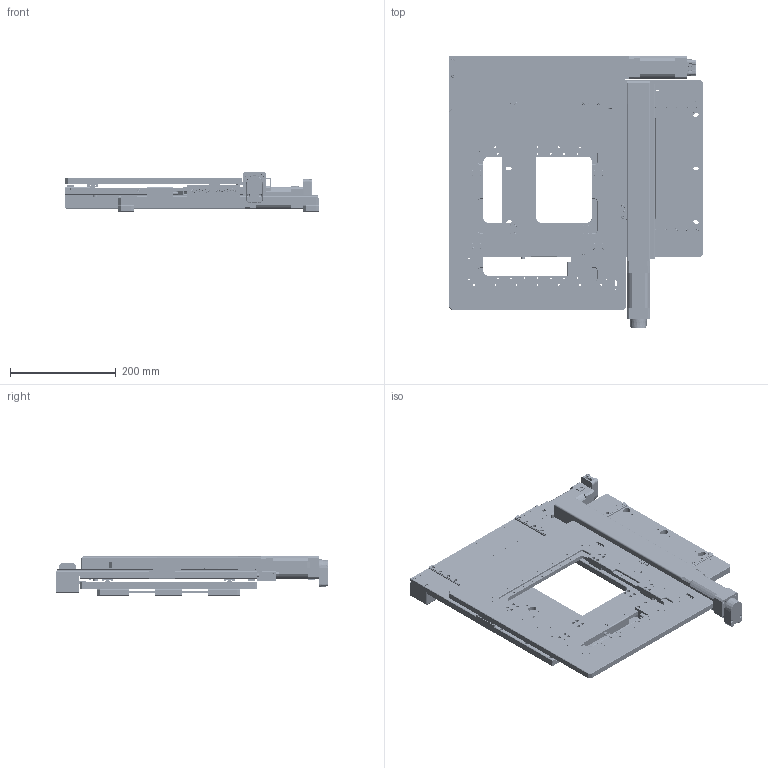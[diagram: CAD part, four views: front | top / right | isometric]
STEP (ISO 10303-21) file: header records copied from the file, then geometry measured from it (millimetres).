
FILE_DESCRIPTION(/* description */ (''),/* implementation_level */ '2;1');
FILE_NAME(/* name */ 'U:\KONSTRUKTORIAI\DOKUMENTACIJA\8\8MTF-200-B43-MEn4-LEn1\STEP\8MTF-200-B43-MEn4-LEn1 X-100 Y-100.stp',/* time_stamp */ '2021-05-06T15:54:15+03:00',/* author */ ('dsgn32'),/* organization */ (''),/* preprocessor_version */ 'ST-DEVELOPER v15.2',/* originating_system */ 'Autodesk Inventor 2014',/* authorisation */ '');
FILE_SCHEMA (('AUTOMOTIVE_DESIGN { 1 0 10303 214 3 1 1 }'));
Products named in the file (1): 8MTF-200-B43-MEn4-LEn1 X-100 Y-100
Bounding box: 480 x 513.89 x 74 mm (x, y, z)
Volume: 4783412.2 mm3; surface area: 911437.7 mm2
Topology: 4 solids, 87 shells, 7399 faces, 18395 edges, 11785 vertices
Faces by surface type: plane 4157, cylinder 2087, bspline 546, cone 417, torus 156, sphere 36
Full cylindrical faces by diameter (mm): 0.61 x52, 0.813 x10, 1.143 x52, 1.321 x52, 1.567 x34, 1.981 x16, 2.013 x9, 2.459 x152, 2.5 x27, 2.693 x8, 2.9 x4, 3 x25, 3.048 x4, 3.1 x2, 3.175 x4, 3.242 x70, 3.302 x12, 3.4 x57, 3.5 x81, 4 x25, 4.2 x3, 4.5 x22, 4.917 x2, 5 x6, 5.5 x17, 6 x122, 6.35 x2, 6.5 x8, 7 x23, 8 x22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
Entity records: 239118 total; most frequent: CARTESIAN_POINT 64948, DIRECTION 33330, ORIENTED_EDGE 33132, EDGE_CURVE 16550, AXIS2_PLACEMENT_3D 11584, VERTEX_POINT 11354, LINE 10162, VECTOR 10162
